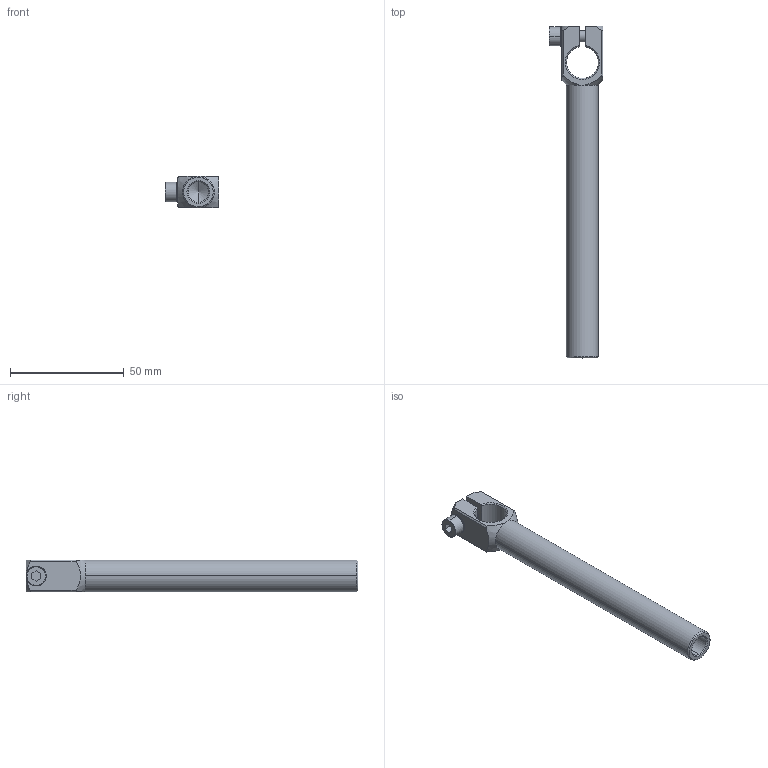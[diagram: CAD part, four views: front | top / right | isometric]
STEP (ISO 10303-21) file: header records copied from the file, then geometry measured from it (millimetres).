
FILE_DESCRIPTION (( 'STEP AP214' ), '1' );
FILE_NAME ('SCA1-1414L120T.STEP', '2023-01-11T08:17:18', ( 'Windows User' ), ( 'P R C' ), 'SwSTEP 2.0', 'SolidWorks 2019', '' );
FILE_SCHEMA (( 'AUTOMOTIVE_DESIGN' ));
Length unit declared in the file: millimetre
Products named in the file (1): SCA1-1414L120T
Bounding box: 23.6 x 146 x 14 mm (x, y, z)
Volume: 15150.3 mm3; surface area: 11805.6 mm2
Topology: 3 solids, 3 shells, 252 faces, 719 edges, 472 vertices
Faces by surface type: plane 211, cylinder 22, cone 17, bspline 2
Entity records: 11282 total; most frequent: CARTESIAN_POINT 1699, DIRECTION 1444, ORIENTED_EDGE 1434, EDGE_CURVE 717, AXIS2_PLACEMENT_3D 498, VERTEX_POINT 472, LINE 448, VECTOR 448
